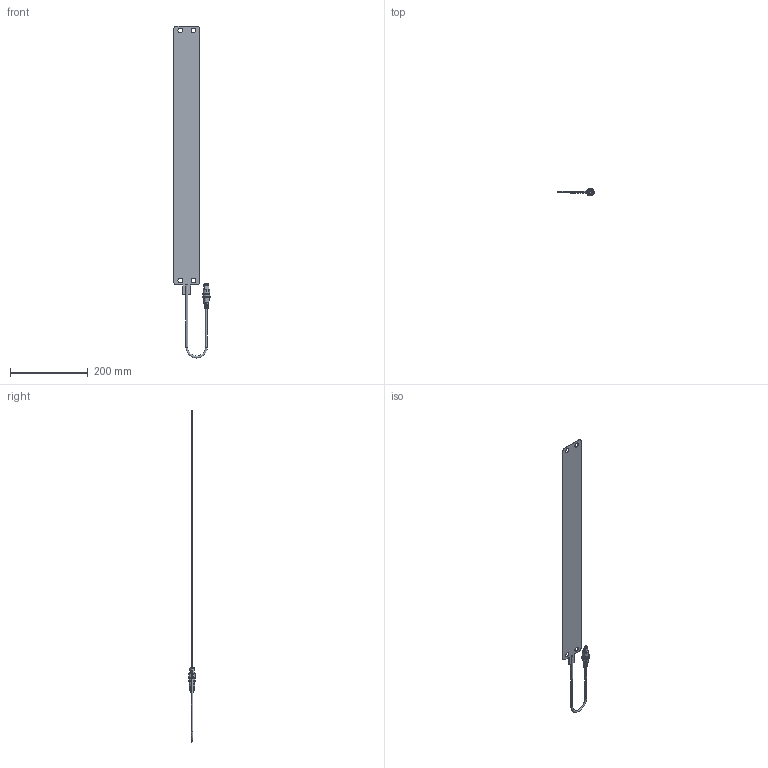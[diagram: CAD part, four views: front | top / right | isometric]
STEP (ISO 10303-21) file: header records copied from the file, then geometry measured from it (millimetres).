
FILE_DESCRIPTION (( 'STEP AP203' ), '1' );
FILE_NAME ('產品三維模型圖-TPS-A.STEP', '2017-10-16T01:59:16', ( '' ), ( '' ), 'SwSTEP 2.0', 'SolidWorks 2015', '' );
FILE_SCHEMA (( 'CONFIG_CONTROL_DESIGN' ));
Length unit declared in the file: millimetre
Products named in the file (1): 產品三維模型圖-TPS-A
Bounding box: 93.49 x 19.98 x 852.5 mm (x, y, z)
Volume: 50703.3 mm3; surface area: 99947.3 mm2
Topology: 1 solids, 2 shells, 195 faces, 527 edges, 343 vertices
Faces by surface type: plane 95, cylinder 53, bspline 21, torus 21, sphere 3, cone 2
Entity records: 8042 total; most frequent: CARTESIAN_POINT 3228, ORIENTED_EDGE 1048, DIRECTION 924, EDGE_CURVE 524, AXIS2_PLACEMENT_3D 341, VERTEX_POINT 341, LINE 242, VECTOR 242
